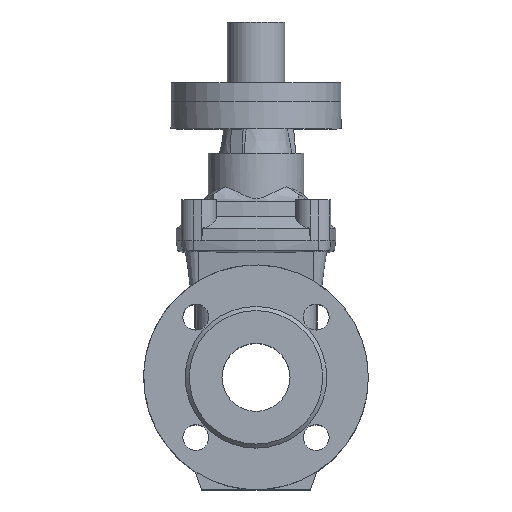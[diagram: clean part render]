
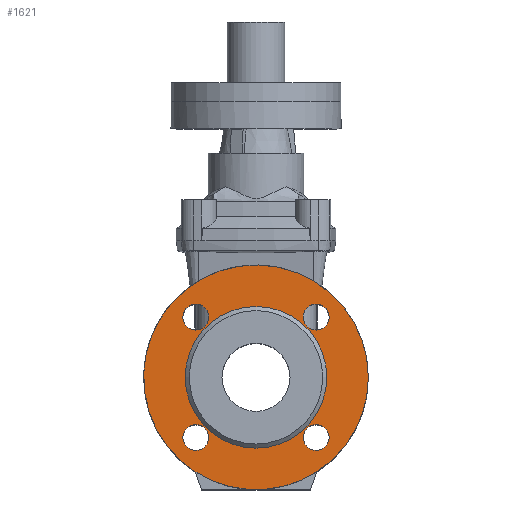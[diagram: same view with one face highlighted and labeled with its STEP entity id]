
A CAD part, top view. The second image highlights one B-rep face of the part: STEP entity #1621.
In plain terms, the highlighted planar face has unit normal (0, 0, 1).
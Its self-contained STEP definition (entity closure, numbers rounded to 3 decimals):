
#1034 = ORIENTED_EDGE ( 'NONE', *, *, #3228, .T. ) ;
#1035 = ORIENTED_EDGE ( 'NONE', *, *, #5663, .F. ) ;
#1036 = ORIENTED_EDGE ( 'NONE', *, *, #3234, .F. ) ;
#1044 = ORIENTED_EDGE ( 'NONE', *, *, #3227, .T. ) ;
#1138 = ORIENTED_EDGE ( 'NONE', *, *, #5644, .T. ) ;
#1139 = ORIENTED_EDGE ( 'NONE', *, *, #3237, .F. ) ;
#1621 = ADVANCED_FACE ( 'NONE', ( #2250, #2248, #2254, #2244, #2255, #2253 ), #3838, .T. ) ;
#2244 = FACE_OUTER_BOUND ( 'NONE', #3789, .T. ) ;
#2248 = FACE_BOUND ( 'NONE', #4763, .T. ) ;
#2250 = FACE_BOUND ( 'NONE', #3926, .T. ) ;
#2253 = FACE_BOUND ( 'NONE', #4743, .T. ) ;
#2254 = FACE_BOUND ( 'NONE', #3134, .T. ) ;
#2255 = FACE_BOUND ( 'NONE', #3143, .T. ) ;
#2341 = CIRCLE ( 'NONE', #3408, 9.5 ) ;
#2342 = CIRCLE ( 'NONE', #3409, 82.5 ) ;
#2346 = CIRCLE ( 'NONE', #3413, 52. ) ;
#2354 = CIRCLE ( 'NONE', #3415, 9.5 ) ;
#2464 = CIRCLE ( 'NONE', #3460, 9.5 ) ;
#2482 = CIRCLE ( 'NONE', #3467, 9.5 ) ;
#3134 = EDGE_LOOP ( 'NONE', ( #1036 ) ) ;
#3143 = EDGE_LOOP ( 'NONE', ( #1139 ) ) ;
#3227 = EDGE_CURVE ( 'NONE', #6805, #6805, #2341, .T. ) ;
#3228 = EDGE_CURVE ( 'NONE', #6806, #6806, #2342, .T. ) ;
#3234 = EDGE_CURVE ( 'NONE', #6809, #6809, #2346, .T. ) ;
#3237 = EDGE_CURVE ( 'NONE', #6811, #6811, #2354, .T. ) ;
#3371 = AXIS2_PLACEMENT_3D ( 'NONE', #3840, #3837, #3842 ) ;
#3408 = AXIS2_PLACEMENT_3D ( 'NONE', #4039, #4040, #4041 ) ;
#3409 = AXIS2_PLACEMENT_3D ( 'NONE', #4042, #4043, #4044 ) ;
#3413 = AXIS2_PLACEMENT_3D ( 'NONE', #4058, #4059, #4060 ) ;
#3415 = AXIS2_PLACEMENT_3D ( 'NONE', #4067, #4068, #4069 ) ;
#3460 = AXIS2_PLACEMENT_3D ( 'NONE', #5064, #5065, #5066 ) ;
#3467 = AXIS2_PLACEMENT_3D ( 'NONE', #5124, #5125, #5126 ) ;
#3789 = EDGE_LOOP ( 'NONE', ( #1034 ) ) ;
#3837 = DIRECTION ( 'NONE',  ( 0., 0., 1. ) ) ;
#3838 = PLANE ( 'NONE',  #3371 ) ;
#3840 = CARTESIAN_POINT ( 'NONE',  ( 0., 82.5, 72. ) ) ;
#3842 = DIRECTION ( 'NONE',  ( -1., 0., 0. ) ) ;
#3926 = EDGE_LOOP ( 'NONE', ( #1044 ) ) ;
#4039 = CARTESIAN_POINT ( 'NONE',  ( 44.194, 44.194, 72. ) ) ;
#4040 = DIRECTION ( 'NONE',  ( 0., 0., -1. ) ) ;
#4041 = DIRECTION ( 'NONE',  ( 1., 0., 0. ) ) ;
#4042 = CARTESIAN_POINT ( 'NONE',  ( 0., 0., 72. ) ) ;
#4043 = DIRECTION ( 'NONE',  ( 0., 0., 1. ) ) ;
#4044 = DIRECTION ( 'NONE',  ( 1., 0., 0. ) ) ;
#4058 = CARTESIAN_POINT ( 'NONE',  ( 0., 0., 72. ) ) ;
#4059 = DIRECTION ( 'NONE',  ( 0., 0., 1. ) ) ;
#4060 = DIRECTION ( 'NONE',  ( 1., 0., 0. ) ) ;
#4067 = CARTESIAN_POINT ( 'NONE',  ( -44.194, -44.194, 72. ) ) ;
#4068 = DIRECTION ( 'NONE',  ( 0., 0., 1. ) ) ;
#4069 = DIRECTION ( 'NONE',  ( -1., 0., 0. ) ) ;
#4743 = EDGE_LOOP ( 'NONE', ( #1138 ) ) ;
#4763 = EDGE_LOOP ( 'NONE', ( #1035 ) ) ;
#5064 = CARTESIAN_POINT ( 'NONE',  ( 44.194, -44.194, 72. ) ) ;
#5065 = DIRECTION ( 'NONE',  ( 0., 0., -1. ) ) ;
#5066 = DIRECTION ( 'NONE',  ( 1., 0., 0. ) ) ;
#5124 = CARTESIAN_POINT ( 'NONE',  ( -44.194, 44.194, 72. ) ) ;
#5125 = DIRECTION ( 'NONE',  ( 0., 0., 1. ) ) ;
#5126 = DIRECTION ( 'NONE',  ( -1., 0., 0. ) ) ;
#5644 = EDGE_CURVE ( 'NONE', #6816, #6816, #2464, .T. ) ;
#5663 = EDGE_CURVE ( 'NONE', #6820, #6820, #2482, .T. ) ;
#6805 = VERTEX_POINT ( 'NONE', #8610 ) ;
#6806 = VERTEX_POINT ( 'NONE', #8611 ) ;
#6809 = VERTEX_POINT ( 'NONE', #8614 ) ;
#6811 = VERTEX_POINT ( 'NONE', #8616 ) ;
#6816 = VERTEX_POINT ( 'NONE', #8621 ) ;
#6820 = VERTEX_POINT ( 'NONE', #8625 ) ;
#8610 = CARTESIAN_POINT ( 'NONE',  ( 53.694, 44.194, 72. ) ) ;
#8611 = CARTESIAN_POINT ( 'NONE',  ( 82.5, 0., 72. ) ) ;
#8614 = CARTESIAN_POINT ( 'NONE',  ( 52., 0., 72. ) ) ;
#8616 = CARTESIAN_POINT ( 'NONE',  ( -53.694, -44.194, 72. ) ) ;
#8621 = CARTESIAN_POINT ( 'NONE',  ( 53.694, -44.194, 72. ) ) ;
#8625 = CARTESIAN_POINT ( 'NONE',  ( -53.694, 44.194, 72. ) ) ;
